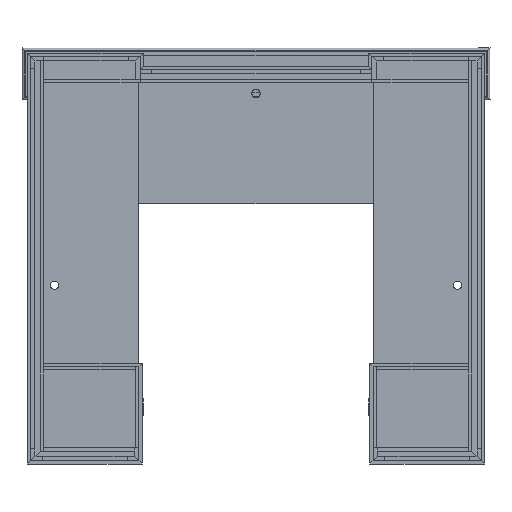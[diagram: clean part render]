
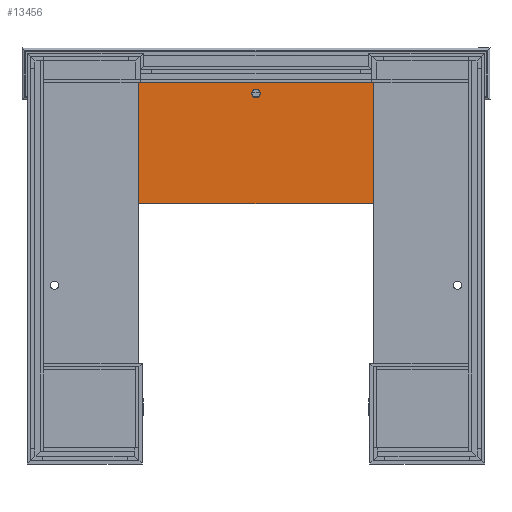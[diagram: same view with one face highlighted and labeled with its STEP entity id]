
A CAD part, front view. The second image highlights one B-rep face of the part: STEP entity #13456.
In plain terms, the highlighted planar face has unit normal (0, -1, 0).
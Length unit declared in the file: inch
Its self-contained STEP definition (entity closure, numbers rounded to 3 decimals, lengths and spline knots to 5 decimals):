
#639=CIRCLE('',#14564,0.95);
#815=FACE_BOUND('',#2988,.T.);
#2203=FACE_OUTER_BOUND('',#2987,.T.);
#2987=EDGE_LOOP('',(#11205,#11206,#11207,#11208));
#2988=EDGE_LOOP('',(#11209));
#4317=LINE('',#20638,#5833);
#4320=LINE('',#20644,#5836);
#4323=LINE('',#20650,#5839);
#4326=LINE('',#20654,#5842);
#5833=VECTOR('',#17154,0.3937);
#5836=VECTOR('',#17159,0.3937);
#5839=VECTOR('',#17164,0.3937);
#5842=VECTOR('',#17169,0.3937);
#6968=VERTEX_POINT('',#20628);
#6971=VERTEX_POINT('',#20635);
#6972=VERTEX_POINT('',#20637);
#6974=VERTEX_POINT('',#20643);
#6976=VERTEX_POINT('',#20649);
#8430=EDGE_CURVE('',#6968,#6968,#639,.T.);
#8433=EDGE_CURVE('',#6972,#6971,#4317,.T.);
#8436=EDGE_CURVE('',#6974,#6972,#4320,.T.);
#8439=EDGE_CURVE('',#6976,#6974,#4323,.T.);
#8442=EDGE_CURVE('',#6971,#6976,#4326,.T.);
#11205=ORIENTED_EDGE('',*,*,#8442,.T.);
#11206=ORIENTED_EDGE('',*,*,#8439,.T.);
#11207=ORIENTED_EDGE('',*,*,#8436,.T.);
#11208=ORIENTED_EDGE('',*,*,#8433,.T.);
#11209=ORIENTED_EDGE('',*,*,#8430,.T.);
#12726=PLANE('',#14569);
#13456=ADVANCED_FACE('',(#2203,#815),#12726,.T.);
#14564=AXIS2_PLACEMENT_3D('',#20630,#17148,#17149);
#14569=AXIS2_PLACEMENT_3D('',#20655,#17170,#17171);
#17148=DIRECTION('center_axis',(0.,1.,0.));
#17149=DIRECTION('ref_axis',(1.,0.,0.));
#17154=DIRECTION('',(1.,0.,0.));
#17159=DIRECTION('',(0.,0.,-1.));
#17164=DIRECTION('',(-1.,0.,0.));
#17169=DIRECTION('',(0.,0.,1.));
#17170=DIRECTION('center_axis',(0.,-1.,0.));
#17171=DIRECTION('ref_axis',(0.,0.,-1.));
#20628=CARTESIAN_POINT('',(-27.95,-11.25,81.75));
#20630=CARTESIAN_POINT('Origin',(-27.,-11.25,81.75));
#20635=CARTESIAN_POINT('',(0.,-11.25,56.25));
#20637=CARTESIAN_POINT('',(-54.,-11.25,56.25));
#20638=CARTESIAN_POINT('',(-54.,-11.25,56.25));
#20643=CARTESIAN_POINT('',(-54.,-11.25,84.25));
#20644=CARTESIAN_POINT('',(-54.,-11.25,84.25));
#20649=CARTESIAN_POINT('',(0.,-11.25,84.25));
#20650=CARTESIAN_POINT('',(22.,-11.25,84.25));
#20654=CARTESIAN_POINT('',(0.,-11.25,0.));
#20655=CARTESIAN_POINT('Origin',(-27.,-11.25,70.25));
